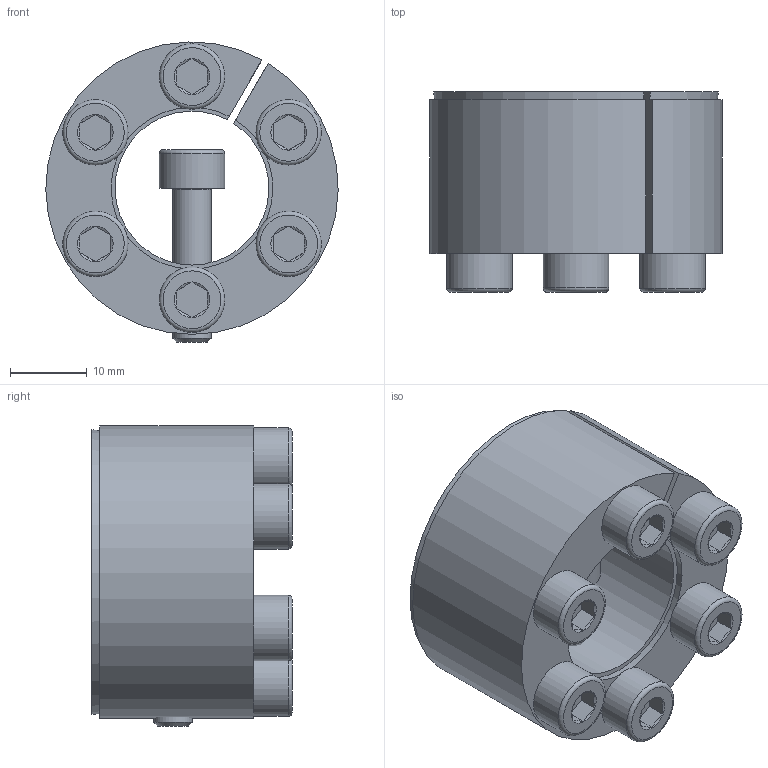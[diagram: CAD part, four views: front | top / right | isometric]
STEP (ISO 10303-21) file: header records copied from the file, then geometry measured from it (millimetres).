
FILE_DESCRIPTION( ( 'Unknown' ), '1' );
FILE_NAME( 'C:/Dokumente und Einstellungen/Sven/Desktop/homepage/cad - homepage/KBS61/KBS 61 - 20 x 38.stp', 'Unknown', ( 'Unknown' ), ( 'Unknown' ), 'XStep 1.0', 'Unknown', ' ' );
FILE_SCHEMA( ( 'automotive_design' ) );
Length unit declared in the file: millimetre
Products named in the file (3): Assem1; KBS 61 - 20 x 38; ISO EN DIN 4762 M5x20
Bounding box: 38 x 26 x 39 mm (x, y, z)
Volume: 33397.9 mm3; surface area: 19182.6 mm2
Topology: 9 solids, 9 shells, 179 faces, 355 edges, 208 vertices
Faces by surface type: plane 82, cone 53, cylinder 30, torus 14
Full cylindrical faces by diameter (mm): 5 x19, 8.5 x7
Entity records: 1242 total; most frequent: CARTESIAN_POINT 217, DIRECTION 180, ORIENTED_EDGE 134, AXIS2_PLACEMENT_3D 78, EDGE_CURVE 67, EDGE_LOOP 62, FACE_OUTER_BOUND 47, VERTEX_POINT 47
